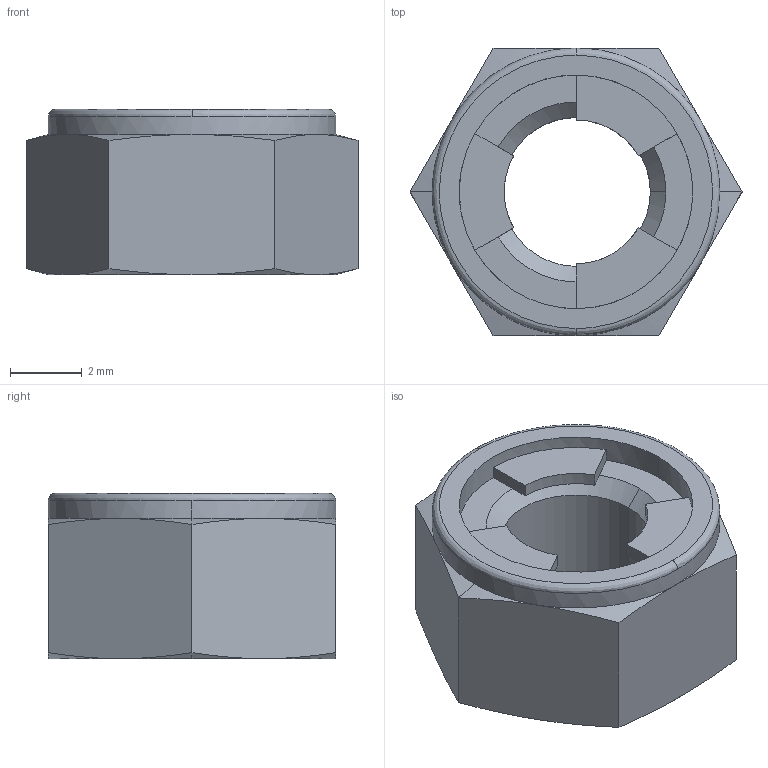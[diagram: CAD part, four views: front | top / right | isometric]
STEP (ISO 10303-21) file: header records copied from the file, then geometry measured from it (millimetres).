
FILE_DESCRIPTION(/* description */ (''),/* implementation_level */ '2;1');
FILE_NAME(/* name */ '7.x-cart#7.3#PACK-UNUT5',/* time_stamp */ '2014-12-01T20:17:28+01:00',/* author */ (''),/* organization */ (''),/* preprocessor_version */ 'ST-DEVELOPER v14',/* originating_system */ '',/* authorisation */ '');
FILE_SCHEMA (('AUTOMOTIVE_DESIGN'));
Length unit declared in the file: millimetre
Products named in the file (2): Document; nut DIN985-like, lock, M5
Assembly tree (1 placements, depth 2):
  Document
    nut DIN985-like, lock, M5
Bounding box: 9.24 x 8 x 4.6 mm (x, y, z)
Volume: 176 mm3; surface area: 271.7 mm2
Topology: 1 solids, 1 shells, 54 faces, 130 edges, 78 vertices
Faces by surface type: bspline 31, plane 23
Entity records: 3574 total; most frequent: CARTESIAN_POINT 1914, ORIENTED_EDGE 260, PCURVE 260, DEFINITIONAL_REPRESENTATION 260, B_SPLINE_CURVE_WITH_KNOTS 249, SURFACE_CURVE 130, EDGE_CURVE 130, VERTEX_POINT 78
